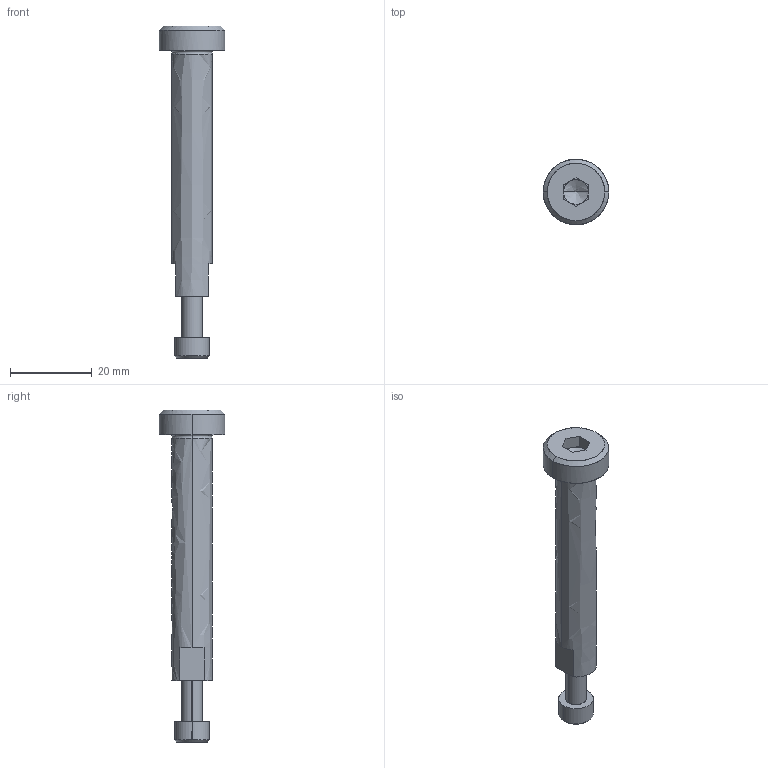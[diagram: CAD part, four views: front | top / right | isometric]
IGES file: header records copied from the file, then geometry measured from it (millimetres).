
Global section: file name: E:\UnigraphicsGraphicData\MISUMI_PRESS-PARTS\IGES\3d_sbt10-60_05058_r00.igs; native system: NX V5.0; preprocessor: UGS NX IGES V5.0; author: MISUMI; date: 20110105.162433; units: millimetre
Bounding box: 16 x 16 x 81 mm (x, y, z)
Surface area: 3545.9 mm2 (no closed solid volume)
Topology: 0 solids, 0 shells, 56 faces, 300 edges, 296 vertices
Faces by surface type: bspline 56
